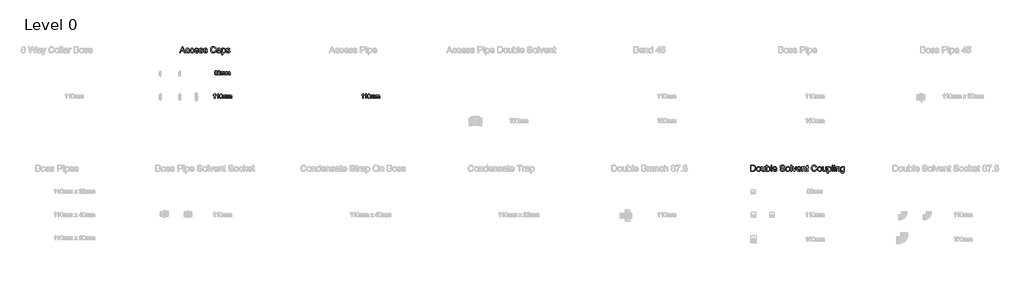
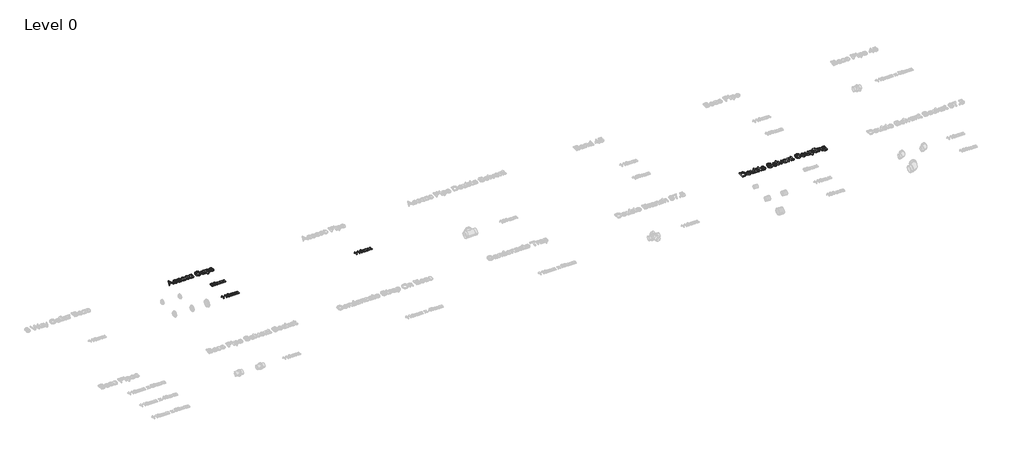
# One storey, part 24 of 28: 5 proxies.
"""IFC4 building model written with IfcOpenShell, lengths in millimetres."""

from ifc_helpers import new_model, si_unit, origin, origin_with_axes, place, context, project, spatial, polyline, outline, extrude, element, save

model = new_model("IFC4")

# Units and contexts
model_context = context("Model", 3, world=origin())
ifc_project = project(units=[si_unit("LENGTHUNIT", "METRE", prefix="MILLI")], contexts=[model_context])

# Site, building, storey
site = spatial("IfcSite", under=ifc_project)
building = spatial("IfcBuilding", under=site)
storey = spatial("IfcBuildingStorey", under=building, Name="Level 0", Elevation=0.0)

# Proxies
placement = place(None, origin())
element("IfcBuildingElementProxy", 1, Name="100mm Arial", ObjectType="100mm Arial", at=placement, inside=storey, context=model_context, shape_type="SweptSolid", body=[
    extrude(outline(polyline([(-13782.2581649, 8840.881174), (-13793.4721072, 8848.5254048), (-13797.1139341, 8860.4244433), (-13795.1307611, 8870.0458375), (-13789.1812418, 8877.9965587), (-13779.9324438, 8883.3330971), (-13768.0514341, 8885.1119433), (-13756.0983091, 8883.2910298), (-13746.7293188, 8877.8282894), (-13740.6716264, 8869.7513663), (-13738.6523957, 8860.0879048), (-13742.2461457, 8848.4893471), (-13753.147588, 8840.881174), (-13740.0586457, 8831.2297317), (-13735.5754726, 8815.304251), (-13737.7990303, 8803.537424), (-13744.4697034, 8793.8138663), (-13754.7701841, 8787.287424), (-13767.8831649, 8785.1119433), (-13780.9961457, 8787.2964385), (-13791.2966264, 8793.849924), (-13797.9672995, 8803.6666308), (-13800.1908572, 8815.6407894), (-13795.5273957, 8831.9388663), (-13782.2581649, 8840.881174)]), holes=[polyline([(-13784.8062418, 8860.0638663), (-13780.4432611, 8850.4004048), (-13767.7389341, 8846.6504048), (-13755.2870111, 8850.3763663), (-13750.960088, 8859.5109817), (-13755.4312418, 8868.9701163), (-13767.8831649, 8872.804251), (-13780.3711457, 8869.054251), (-13784.8062418, 8860.0638663)]), polyline([(-13787.8831649, 8816.0734817), (-13785.8278764, 8806.8066548), (-13778.5562418, 8799.8715587), (-13767.7870111, 8797.4196356), (-13753.1235495, 8802.5758856), (-13747.8831649, 8815.6888663), (-13753.2918188, 8829.054251), (-13759.7221072, 8833.0205971), (-13768.1956649, 8834.3427125), (-13782.678838, 8829.1263663), (-13787.8831649, 8816.0734817)])]), origin_with_axes(), (0.0, 0.0, 1.0), 15.0),
    extrude(outline(polyline([(-13661.7293188, 8798.9580971), (-13661.7293188, 8786.6504048), (-13726.3447034, 8786.6504048), (-13725.022588, 8795.1359817), (-13717.5466264, 8808.2008856), (-13702.1379726, 8822.4677125), (-13680.8879726, 8842.9725202), (-13675.5754726, 8856.9148279), (-13680.5874918, 8868.2008856), (-13693.6764341, 8872.804251), (-13707.3182611, 8868.3090587), (-13712.4985495, 8855.881174), (-13724.8062418, 8857.4196356), (-13721.8224678, 8869.3246837), (-13715.3711457, 8878.0205971), (-13705.7888139, 8883.3391067), (-13693.4120111, 8885.1119433), (-13680.9450639, 8883.1407894), (-13671.3807611, 8877.2273279), (-13665.2960255, 8868.3931933), (-13663.2677803, 8857.6600202), (-13665.4552803, 8845.9893471), (-13672.7269149, 8833.9220394), (-13690.3591264, 8817.0590587), (-13704.5177803, 8805.2201163), (-13710.0706649, 8798.9580971), (-13661.7293188, 8798.9580971)])), origin_with_axes(), (0.0, 0.0, 1.0), 15.0),
    extrude(outline(polyline([(-13646.3447034, 8786.6504048), (-13646.3447034, 8858.9580971), (-13634.0370111, 8858.9580971), (-13634.0370111, 8847.0590587), (-13625.5754726, 8856.8066548), (-13613.5322034, 8860.4965587), (-13601.2004726, 8856.7345394), (-13594.4216264, 8846.193674), (-13584.8182611, 8856.9208375), (-13572.6908572, 8860.4965587), (-13563.4390543, 8859.0091788), (-13556.5971072, 8854.5470394), (-13552.3693428, 8846.9899481), (-13550.960088, 8836.2177125), (-13550.960088, 8786.6504048), (-13563.2677803, 8786.6504048), (-13563.2677803, 8830.929251), (-13564.4096072, 8841.2056933), (-13568.5442226, 8846.2657894), (-13575.5754726, 8848.1888663), (-13587.678838, 8843.2609817), (-13592.4985495, 8827.4677125), (-13592.4985495, 8786.6504048), (-13604.8062418, 8786.6504048), (-13604.8062418, 8832.2994433), (-13607.6547995, 8844.2225202), (-13616.9937418, 8848.1888663), (-13626.1043188, 8845.5446356), (-13632.1620111, 8837.804251), (-13634.0370111, 8823.116751), (-13634.0370111, 8786.6504048), (-13646.3447034, 8786.6504048)])), origin_with_axes(), (0.0, 0.0, 1.0), 15.0),
    extrude(outline(polyline([(-13532.4985495, 8786.6504048), (-13532.4985495, 8858.9580971), (-13520.1908572, 8858.9580971), (-13520.1908572, 8847.0590587), (-13511.7293188, 8856.8066548), (-13499.6860495, 8860.4965587), (-13487.3543188, 8856.7345394), (-13480.5754726, 8846.193674), (-13470.9721072, 8856.9208375), (-13458.8447034, 8860.4965587), (-13449.5929005, 8859.0091788), (-13442.7509534, 8854.5470394), (-13438.5231889, 8846.9899481), (-13437.1139341, 8836.2177125), (-13437.1139341, 8786.6504048), (-13449.4216264, 8786.6504048), (-13449.4216264, 8830.929251), (-13450.5634534, 8841.2056933), (-13454.6980688, 8846.2657894), (-13461.7293188, 8848.1888663), (-13473.8326841, 8843.2609817), (-13478.6523957, 8827.4677125), (-13478.6523957, 8786.6504048), (-13490.960088, 8786.6504048), (-13490.960088, 8832.2994433), (-13493.8086457, 8844.2225202), (-13503.147588, 8848.1888663), (-13512.2581649, 8845.5446356), (-13518.3158572, 8837.804251), (-13520.1908572, 8823.116751), (-13520.1908572, 8786.6504048), (-13532.4985495, 8786.6504048)])), origin_with_axes(), (0.0, 0.0, 1.0), 15.0),
])
element("IfcBuildingElementProxy", 2, Name="100mm Arial", ObjectType="100mm Arial", at=placement, inside=storey, context=model_context, shape_type="SweptSolid", body=[
    extrude(outline(polyline([(-13791.7293188, 8237.7167304), (-13804.0370111, 8237.7167304), (-13804.0370111, 8314.4474996), (-13815.6956649, 8306.1422111), (-13828.6523957, 8299.9282688), (-13828.6523957, 8311.5628842), (-13810.6115303, 8323.0773073), (-13799.6620111, 8336.1782688), (-13791.7293188, 8336.1782688), (-13791.7293188, 8237.7167304)])), origin_with_axes(), (0.0, 0.0, 1.0), 15.0),
    extrude(outline(polyline([(-13716.3447034, 8237.7167304), (-13728.6523957, 8237.7167304), (-13728.6523957, 8314.4474996), (-13740.3110495, 8306.1422111), (-13753.2677803, 8299.9282688), (-13753.2677803, 8311.5628842), (-13735.2269149, 8323.0773073), (-13724.2773957, 8336.1782688), (-13716.3447034, 8336.1782688), (-13716.3447034, 8237.7167304)])), origin_with_axes(), (0.0, 0.0, 1.0), 15.0),
    extrude(outline(polyline([(-13687.1139341, 8286.1542304), (-13683.4961457, 8314.4835573), (-13672.7509534, 8330.8176919), (-13654.8062418, 8336.1782688), (-13640.4312418, 8333.0051919), (-13630.5033572, 8323.8585573), (-13624.7341264, 8309.2912496), (-13622.4985495, 8286.1542304), (-13626.0802803, 8257.9450958), (-13636.7894149, 8241.5749035), (-13654.8062418, 8236.1782688), (-13667.5947034, 8238.5220188), (-13677.3062418, 8245.5532688), (-13684.6620111, 8262.2059131), (-13687.1139341, 8286.1542304)]), holes=[polyline([(-13674.8062418, 8286.1782688), (-13673.3639341, 8266.8182929), (-13669.0370111, 8255.613365), (-13662.5947034, 8250.2678121), (-13654.8062418, 8248.4859611), (-13647.0177803, 8250.2738217), (-13640.5754726, 8255.6374035), (-13636.2485495, 8266.848341), (-13634.8062418, 8286.1782688), (-13636.2004726, 8305.1025477), (-13640.3831649, 8316.394615), (-13646.8134534, 8322.0015861), (-13654.9504726, 8323.8705765), (-13662.6547995, 8322.2239419), (-13668.8447034, 8317.2840381), (-13673.3158572, 8305.2888458), (-13674.8062418, 8286.1782688)])]), origin_with_axes(), (0.0, 0.0, 1.0), 15.0),
    extrude(outline(polyline([(-13608.6523957, 8237.7167304), (-13608.6523957, 8310.0244227), (-13596.3447034, 8310.0244227), (-13596.3447034, 8298.1253842), (-13587.8831649, 8307.8729804), (-13575.8398957, 8311.5628842), (-13563.5081649, 8307.800865), (-13556.7293188, 8297.2599996), (-13547.1259534, 8307.9871631), (-13534.9985495, 8311.5628842), (-13525.7467466, 8310.0755044), (-13518.9047995, 8305.613365), (-13514.6770351, 8298.0562736), (-13513.2677803, 8287.2840381), (-13513.2677803, 8237.7167304), (-13525.5754726, 8237.7167304), (-13525.5754726, 8281.9955765), (-13526.7172995, 8292.2720188), (-13530.8519149, 8297.332115), (-13537.8831649, 8299.2551919), (-13549.9865303, 8294.3273073), (-13554.8062418, 8278.5340381), (-13554.8062418, 8237.7167304), (-13567.1139341, 8237.7167304), (-13567.1139341, 8283.3657688), (-13569.9624918, 8295.2888458), (-13579.3014341, 8299.2551919), (-13588.4120111, 8296.6109611), (-13594.4697034, 8288.8705765), (-13596.3447034, 8274.1830765), (-13596.3447034, 8237.7167304), (-13608.6523957, 8237.7167304)])), origin_with_axes(), (0.0, 0.0, 1.0), 15.0),
    extrude(outline(polyline([(-13494.8062418, 8237.7167304), (-13494.8062418, 8310.0244227), (-13482.4985495, 8310.0244227), (-13482.4985495, 8298.1253842), (-13474.0370111, 8307.8729804), (-13461.9937418, 8311.5628842), (-13449.6620111, 8307.800865), (-13442.8831649, 8297.2599996), (-13433.2797995, 8307.9871631), (-13421.1523957, 8311.5628842), (-13411.9005928, 8310.0755044), (-13405.0586457, 8305.613365), (-13400.8308813, 8298.0562736), (-13399.4216264, 8287.2840381), (-13399.4216264, 8237.7167304), (-13411.7293188, 8237.7167304), (-13411.7293188, 8281.9955765), (-13412.8711457, 8292.2720188), (-13417.0057611, 8297.332115), (-13424.0370111, 8299.2551919), (-13436.1403764, 8294.3273073), (-13440.960088, 8278.5340381), (-13440.960088, 8237.7167304), (-13453.2677803, 8237.7167304), (-13453.2677803, 8283.3657688), (-13456.116338, 8295.2888458), (-13465.4552803, 8299.2551919), (-13474.5658572, 8296.6109611), (-13480.6235495, 8288.8705765), (-13482.4985495, 8274.1830765), (-13482.4985495, 8237.7167304), (-13494.8062418, 8237.7167304)])), origin_with_axes(), (0.0, 0.0, 1.0), 15.0),
])
element("IfcBuildingElementProxy", 3, Name="100mm Arial", ObjectType="100mm Arial", at=placement, inside=storey, context=model_context, shape_type="SweptSolid", body=[
    extrude(outline(polyline([(-10291.7293188, 8237.7167304), (-10304.0370111, 8237.7167304), (-10304.0370111, 8314.4474996), (-10315.6956649, 8306.1422111), (-10328.6523957, 8299.9282688), (-10328.6523957, 8311.5628842), (-10310.6115303, 8323.0773073), (-10299.6620111, 8336.1782688), (-10291.7293188, 8336.1782688), (-10291.7293188, 8237.7167304)])), origin_with_axes(), (0.0, 0.0, 1.0), 15.0),
    extrude(outline(polyline([(-10216.3447034, 8237.7167304), (-10228.6523957, 8237.7167304), (-10228.6523957, 8314.4474996), (-10240.3110495, 8306.1422111), (-10253.2677803, 8299.9282688), (-10253.2677803, 8311.5628842), (-10235.2269149, 8323.0773073), (-10224.2773957, 8336.1782688), (-10216.3447034, 8336.1782688), (-10216.3447034, 8237.7167304)])), origin_with_axes(), (0.0, 0.0, 1.0), 15.0),
    extrude(outline(polyline([(-10187.1139341, 8286.1542304), (-10183.4961457, 8314.4835573), (-10172.7509534, 8330.8176919), (-10154.8062418, 8336.1782688), (-10140.4312418, 8333.0051919), (-10130.5033572, 8323.8585573), (-10124.7341264, 8309.2912496), (-10122.4985495, 8286.1542304), (-10126.0802803, 8257.9450958), (-10136.7894149, 8241.5749035), (-10154.8062418, 8236.1782688), (-10167.5947034, 8238.5220188), (-10177.3062418, 8245.5532688), (-10184.6620111, 8262.2059131), (-10187.1139341, 8286.1542304)]), holes=[polyline([(-10174.8062418, 8286.1782688), (-10173.3639341, 8266.8182929), (-10169.0370111, 8255.613365), (-10162.5947034, 8250.2678121), (-10154.8062418, 8248.4859611), (-10147.0177803, 8250.2738217), (-10140.5754726, 8255.6374035), (-10136.2485495, 8266.848341), (-10134.8062418, 8286.1782688), (-10136.2004726, 8305.1025477), (-10140.3831649, 8316.394615), (-10146.8134534, 8322.0015861), (-10154.9504726, 8323.8705765), (-10162.6547995, 8322.2239419), (-10168.8447034, 8317.2840381), (-10173.3158572, 8305.2888458), (-10174.8062418, 8286.1782688)])]), origin_with_axes(), (0.0, 0.0, 1.0), 15.0),
    extrude(outline(polyline([(-10108.6523957, 8237.7167304), (-10108.6523957, 8310.0244227), (-10096.3447034, 8310.0244227), (-10096.3447034, 8298.1253842), (-10087.8831649, 8307.8729804), (-10075.8398957, 8311.5628842), (-10063.5081649, 8307.800865), (-10056.7293188, 8297.2599996), (-10047.1259534, 8307.9871631), (-10034.9985495, 8311.5628842), (-10025.7467466, 8310.0755044), (-10018.9047995, 8305.613365), (-10014.6770351, 8298.0562736), (-10013.2677803, 8287.2840381), (-10013.2677803, 8237.7167304), (-10025.5754726, 8237.7167304), (-10025.5754726, 8281.9955765), (-10026.7172995, 8292.2720188), (-10030.8519149, 8297.332115), (-10037.8831649, 8299.2551919), (-10049.9865303, 8294.3273073), (-10054.8062418, 8278.5340381), (-10054.8062418, 8237.7167304), (-10067.1139341, 8237.7167304), (-10067.1139341, 8283.3657688), (-10069.9624918, 8295.2888458), (-10079.3014341, 8299.2551919), (-10088.4120111, 8296.6109611), (-10094.4697034, 8288.8705765), (-10096.3447034, 8274.1830765), (-10096.3447034, 8237.7167304), (-10108.6523957, 8237.7167304)])), origin_with_axes(), (0.0, 0.0, 1.0), 15.0),
    extrude(outline(polyline([(-9994.8062418, 8237.7167304), (-9994.8062418, 8310.0244227), (-9982.4985495, 8310.0244227), (-9982.4985495, 8298.1253842), (-9974.0370111, 8307.8729804), (-9961.9937418, 8311.5628842), (-9949.6620111, 8307.800865), (-9942.8831649, 8297.2599996), (-9933.2797995, 8307.9871631), (-9921.1523957, 8311.5628842), (-9911.9005928, 8310.0755044), (-9905.0586457, 8305.613365), (-9900.8308813, 8298.0562736), (-9899.4216264, 8287.2840381), (-9899.4216264, 8237.7167304), (-9911.7293188, 8237.7167304), (-9911.7293188, 8281.9955765), (-9912.8711457, 8292.2720188), (-9917.0057611, 8297.332115), (-9924.0370111, 8299.2551919), (-9936.1403764, 8294.3273073), (-9940.960088, 8278.5340381), (-9940.960088, 8237.7167304), (-9953.2677803, 8237.7167304), (-9953.2677803, 8283.3657688), (-9956.116338, 8295.2888458), (-9965.4552803, 8299.2551919), (-9974.5658572, 8296.6109611), (-9980.6235495, 8288.8705765), (-9982.4985495, 8274.1830765), (-9982.4985495, 8237.7167304), (-9994.8062418, 8237.7167304)])), origin_with_axes(), (0.0, 0.0, 1.0), 15.0),
])
element("IfcBuildingElementProxy", 4, Name="150mm Arial", ObjectType="150mm Arial", at=placement, inside=storey, context=model_context, shape_type="SweptSolid", body=[
    extrude(outline(polyline([(-14630.1121243, 9305.2145219), (-14571.1577973, 9452.9068296), (-14555.4366435, 9452.9068296), (-14496.4823166, 9305.2145219), (-14515.9895281, 9305.2145219), (-14532.9005858, 9351.3683681), (-14593.7299127, 9351.3683681), (-14610.6049127, 9305.2145219), (-14630.1121243, 9305.2145219)]), holes=[polyline([(-14586.9510666, 9369.8299065), (-14539.6433743, 9369.8299065), (-14552.9486627, 9406.1400027), (-14563.2972204, 9434.4452911), (-14572.491932, 9409.3130796), (-14586.9510666, 9369.8299065)])]), origin_with_axes(), (0.0, 0.0, 1.0), 25.0),
    extrude(outline(polyline([(-14409.835682, 9344.4452911), (-14391.3741435, 9342.1375988), (-14396.5213791, 9325.7178272), (-14406.193855, 9313.3094738), (-14419.4811147, 9305.5074907), (-14435.4727012, 9302.9068296), (-14455.1106219, 9306.5351349), (-14470.4666916, 9317.4200508), (-14480.3780497, 9335.0838128), (-14483.6818358, 9359.0486565), (-14478.038807, 9389.7157238), (-14470.9174127, 9401.2136205), (-14460.8392877, 9409.4212527), (-14448.7824969, 9414.3431277), (-14435.725105, 9415.9837527), (-14420.1256459, 9413.7301469), (-14407.6541916, 9406.9693296), (-14398.7073767, 9396.0618777), (-14393.6818358, 9381.3683681), (-14412.1433743, 9379.0606758), (-14420.7070762, 9392.8888008), (-14435.5808743, 9397.5222142), (-14447.5114632, 9395.2415652), (-14456.9811147, 9388.3996181), (-14463.1605017, 9376.6267815), (-14465.2202973, 9359.5534642), (-14463.2055738, 9342.2502791), (-14457.1614031, 9330.4368777), (-14447.8630257, 9323.6354955), (-14436.085682, 9321.3683681), (-14426.5258863, 9322.7836325), (-14418.6878454, 9327.0294258), (-14412.9862228, 9334.213921), (-14409.835682, 9344.4452911)])), origin_with_axes(), (0.0, 0.0, 1.0), 25.0),
    extrude(outline(polyline([(-14305.9895281, 9344.4452911), (-14287.5279897, 9342.1375988), (-14292.6752252, 9325.7178272), (-14302.3477012, 9313.3094738), (-14315.6349608, 9305.5074907), (-14331.6265473, 9302.9068296), (-14351.264468, 9306.5351349), (-14366.6205377, 9317.4200508), (-14376.5318959, 9335.0838128), (-14379.835682, 9359.0486565), (-14374.1926531, 9389.7157238), (-14367.0712589, 9401.2136205), (-14356.9931339, 9409.4212527), (-14344.936343, 9414.3431277), (-14331.8789512, 9415.9837527), (-14316.2794921, 9413.7301469), (-14303.8080377, 9406.9693296), (-14294.8612228, 9396.0618777), (-14289.835682, 9381.3683681), (-14308.2972204, 9379.0606758), (-14316.8609223, 9392.8888008), (-14331.7347204, 9397.5222142), (-14343.6653094, 9395.2415652), (-14353.1349608, 9388.3996181), (-14359.3143478, 9376.6267815), (-14361.3741435, 9359.5534642), (-14359.3594199, 9342.2502791), (-14353.3152493, 9330.4368777), (-14344.0168719, 9323.6354955), (-14332.2395281, 9321.3683681), (-14322.6797324, 9322.7836325), (-14314.8416916, 9327.0294258), (-14309.140069, 9334.213921), (-14305.9895281, 9344.4452911)])), origin_with_axes(), (0.0, 0.0, 1.0), 25.0),
    extrude(outline(polyline([(-14195.4366435, 9337.5222142), (-14177.335682, 9335.2145219), (-14183.8576171, 9321.5756998), (-14194.2647685, 9311.3803873), (-14208.3227613, 9305.025219), (-14225.7972204, 9302.9068296), (-14247.4588791, 9306.5621782), (-14264.1265473, 9317.5282238), (-14274.7545522, 9335.0928272), (-14278.2972204, 9358.5438488), (-14274.7184945, 9382.7836325), (-14263.9823166, 9400.9116373), (-14247.5400089, 9412.2157238), (-14226.8428935, 9415.9837527), (-14206.7903094, 9412.2247383), (-14190.7671723, 9400.947695), (-14180.2608622, 9382.8557479), (-14176.7587589, 9358.6520219), (-14176.866932, 9353.6760604), (-14259.835682, 9353.6760604), (-14256.640069, 9339.8569498), (-14249.2166916, 9329.697695), (-14238.5030497, 9323.4506998), (-14225.4366435, 9321.3683681), (-14207.335682, 9325.2265411), (-14195.4366435, 9337.5222142)]), holes=[polyline([(-14259.835682, 9372.1375988), (-14195.2202973, 9372.1375988), (-14197.7172925, 9381.8912046), (-14202.6121243, 9388.8683681), (-14213.3753454, 9395.3587527), (-14226.9150089, 9397.5222142), (-14239.3594199, 9395.7959522), (-14249.6493839, 9390.6171661), (-14256.8023286, 9382.5447503), (-14259.835682, 9372.1375988)])]), origin_with_axes(), (0.0, 0.0, 1.0), 25.0),
    extrude(outline(polyline([(-14165.2202973, 9337.5222142), (-14146.7587589, 9339.8299065), (-14143.8471002, 9331.9332719), (-14138.2130858, 9326.1279835), (-14118.6337589, 9321.3683681), (-14099.8116435, 9325.7313488), (-14093.6818358, 9335.9717335), (-14099.8477012, 9344.2650027), (-14118.850105, 9349.5294258), (-14146.6505858, 9358.5618777), (-14158.7839993, 9369.1087527), (-14162.912605, 9384.0005796), (-14159.5952973, 9397.7565892), (-14150.5448166, 9408.2674065), (-14138.8080377, 9413.7301469), (-14122.9246243, 9415.9837527), (-14100.460682, 9412.3599546), (-14086.1818358, 9402.5522623), (-14079.835682, 9385.9837527), (-14098.2972204, 9383.6760604), (-14105.2383262, 9393.8623585), (-14121.4823166, 9397.5222142), (-14139.1505858, 9394.0246181), (-14144.4510666, 9385.8755796), (-14142.2515473, 9380.5029835), (-14135.3645281, 9376.4284642), (-14119.4630858, 9372.4981758), (-14092.36573, 9363.8082719), (-14079.7815954, 9353.9645219), (-14075.2202973, 9337.9188488), (-14080.5748647, 9320.2505796), (-14096.0255858, 9307.43207), (-14118.8861627, 9302.9068296), (-14137.5009464, 9305.08832), (-14151.085682, 9311.6327911), (-14160.1541916, 9322.4681277), (-14165.2202973, 9337.5222142)])), origin_with_axes(), (0.0, 0.0, 1.0), 25.0),
    extrude(outline(polyline([(-14061.3741435, 9337.5222142), (-14042.912605, 9339.8299065), (-14040.0009464, 9331.9332719), (-14034.366932, 9326.1279835), (-14014.787605, 9321.3683681), (-13995.9654897, 9325.7313488), (-13989.835682, 9335.9717335), (-13996.0015473, 9344.2650027), (-14015.0039512, 9349.5294258), (-14042.804432, 9358.5618777), (-14054.9378454, 9369.1087527), (-14059.0664512, 9384.0005796), (-14055.7491435, 9397.7565892), (-14046.6986627, 9408.2674065), (-14034.9618839, 9413.7301469), (-14019.0784704, 9415.9837527), (-13996.6145281, 9412.3599546), (-13982.335682, 9402.5522623), (-13975.9895281, 9385.9837527), (-13994.4510666, 9383.6760604), (-14001.3921723, 9393.8623585), (-14017.6361627, 9397.5222142), (-14035.304432, 9394.0246181), (-14040.6049127, 9385.8755796), (-14038.4053935, 9380.5029835), (-14031.5183743, 9376.4284642), (-14015.616932, 9372.4981758), (-13988.5195762, 9363.8082719), (-13975.9354416, 9353.9645219), (-13971.3741435, 9337.9188488), (-13976.7287108, 9320.2505796), (-13992.179432, 9307.43207), (-14015.0400089, 9302.9068296), (-14033.6547925, 9305.08832), (-14047.2395281, 9311.6327911), (-14056.3080377, 9322.4681277), (-14061.3741435, 9337.5222142)])), origin_with_axes(), (0.0, 0.0, 1.0), 25.0),
    extrude(outline(polyline([(-13786.7587589, 9357.7145219), (-13768.2972204, 9352.9549065), (-13776.8158502, 9331.4419859), (-13790.1842397, 9315.7253392), (-13807.7443358, 9306.111457), (-13828.8380858, 9302.9068296), (-13850.2518478, 9305.3317094), (-13867.257557, 9312.6063488), (-13880.2924127, 9324.478344), (-13889.7936147, 9340.6952911), (-13895.5943959, 9359.760796), (-13897.5279897, 9380.1784642), (-13895.3419921, 9401.713921), (-13888.7839993, 9420.3106758), (-13878.1965594, 9435.3782839), (-13863.9222204, 9446.3263008), (-13846.9931339, 9452.9924666), (-13828.4414512, 9455.2145219), (-13808.1995642, 9452.338921), (-13791.4642877, 9443.7121181), (-13778.7584584, 9429.8659642), (-13770.6049127, 9411.3323104), (-13789.0664512, 9406.9332719), (-13795.4666916, 9420.3963128), (-13804.210682, 9429.6315892), (-13815.4065954, 9434.9726349), (-13829.162605, 9436.7529835), (-13845.0189752, 9434.7788248), (-13858.0448166, 9428.8563488), (-13867.9291315, 9419.6075508), (-13874.3609223, 9407.6544258), (-13879.0664512, 9380.2145219), (-13873.4955377, 9348.4116373), (-13866.3741435, 9336.5351349), (-13856.1517877, 9328.0931277), (-13843.8966796, 9323.049558), (-13830.6770281, 9321.3683681), (-13815.2668719, 9323.6580315), (-13802.4258262, 9330.5270219), (-13792.7308142, 9341.9032238), (-13786.7587589, 9357.7145219)])), origin_with_axes(), (0.0, 0.0, 1.0), 25.0),
    extrude(outline(polyline([(-13675.9895281, 9319.0606758), (-13693.8921723, 9306.5486565), (-13713.6698166, 9302.9068296), (-13729.0980017, 9305.0973344), (-13740.4787108, 9311.6688488), (-13747.4964392, 9321.6478152), (-13749.835682, 9334.0606758), (-13746.3020281, 9348.6640411), (-13737.0171723, 9359.2650027), (-13724.0904897, 9365.322695), (-13708.116932, 9368.0991373), (-13676.0977012, 9374.4452911), (-13675.9895281, 9378.5558681), (-13677.2605618, 9386.7950508), (-13681.0736627, 9392.1856758), (-13689.601307, 9396.1880796), (-13701.4823166, 9397.5222142), (-13720.1602012, 9393.9705315), (-13729.0664512, 9381.3683681), (-13747.5279897, 9383.6760604), (-13739.5412108, 9401.7049065), (-13723.45948, 9412.2698104), (-13699.1025089, 9415.9837527), (-13676.7287108, 9412.7025027), (-13664.0904897, 9404.46332), (-13658.429432, 9391.9332719), (-13657.5279897, 9375.7794258), (-13657.5279897, 9352.8106758), (-13656.5904897, 9320.7373585), (-13652.912605, 9305.2145219), (-13671.3741435, 9305.2145219), (-13675.9895281, 9319.0606758)]), holes=[polyline([(-13675.9895281, 9355.9837527), (-13705.773182, 9350.322695), (-13721.6565954, 9347.3299065), (-13728.850105, 9342.4621181), (-13731.3741435, 9335.3587527), (-13725.8753454, 9325.3707719), (-13709.7395281, 9321.3683681), (-13691.0616435, 9325.7854354), (-13679.0183743, 9336.4765411), (-13676.0977012, 9350.7553873), (-13675.9895281, 9355.9837527)])]), origin_with_axes(), (0.0, 0.0, 1.0), 25.0),
    extrude(outline(polyline([(-13632.1433743, 9263.6760604), (-13632.1433743, 9413.6760604), (-13613.6818358, 9413.6760604), (-13613.6818358, 9395.5750988), (-13600.9174127, 9410.8815892), (-13583.6818358, 9415.9837527), (-13571.1968598, 9414.1988969), (-13560.2803935, 9408.8443296), (-13551.3921723, 9400.24457), (-13544.991932, 9388.7241373), (-13539.835682, 9360.2746181), (-13541.2915113, 9344.4858561), (-13545.6589993, 9330.3647623), (-13552.7984223, 9318.6279835), (-13562.570057, 9309.9921661), (-13573.9507661, 9304.6781637), (-13585.9174127, 9302.9068296), (-13601.9811147, 9307.6484161), (-13613.6818358, 9319.6375988), (-13613.6818358, 9263.6760604), (-13632.1433743, 9263.6760604)]), holes=[polyline([(-13613.6818358, 9358.5799065), (-13611.6851411, 9342.0294258), (-13605.695057, 9330.4549065), (-13596.8564151, 9323.6400027), (-13586.3140473, 9321.3683681), (-13575.6004055, 9323.7211325), (-13566.5364031, 9330.7794258), (-13560.3570161, 9342.7776229), (-13558.2972204, 9359.9500988), (-13560.3074368, 9376.4104354), (-13566.3380858, 9388.1472142), (-13575.163206, 9395.1784642), (-13585.5568358, 9397.5222142), (-13595.9910305, 9395.0297262), (-13605.1541916, 9387.5522623), (-13611.5499247, 9375.3241974), (-13613.6818358, 9358.5799065)])]), origin_with_axes(), (0.0, 0.0, 1.0), 25.0),
    extrude(outline(polyline([(-13525.9895281, 9337.5222142), (-13507.5279897, 9339.8299065), (-13504.616331, 9331.9332719), (-13498.9823166, 9326.1279835), (-13479.4029897, 9321.3683681), (-13460.5808743, 9325.7313488), (-13454.4510666, 9335.9717335), (-13460.616932, 9344.2650027), (-13479.6193358, 9349.5294258), (-13507.4198166, 9358.5618777), (-13519.55323, 9369.1087527), (-13523.6818358, 9384.0005796), (-13520.3645281, 9397.7565892), (-13511.3140473, 9408.2674065), (-13499.5772685, 9413.7301469), (-13483.693855, 9415.9837527), (-13461.2299127, 9412.3599546), (-13446.9510666, 9402.5522623), (-13440.6049127, 9385.9837527), (-13459.0664512, 9383.6760604), (-13466.007557, 9393.8623585), (-13482.2515473, 9397.5222142), (-13499.9198166, 9394.0246181), (-13505.2202973, 9385.8755796), (-13503.0207781, 9380.5029835), (-13496.1337589, 9376.4284642), (-13480.2323166, 9372.4981758), (-13453.1349608, 9363.8082719), (-13440.5508262, 9353.9645219), (-13435.9895281, 9337.9188488), (-13441.3440954, 9320.2505796), (-13456.7948166, 9307.43207), (-13479.6553935, 9302.9068296), (-13498.2701772, 9305.08832), (-13511.8549127, 9311.6327911), (-13520.9234223, 9322.4681277), (-13525.9895281, 9337.5222142)])), origin_with_axes(), (0.0, 0.0, 1.0), 25.0),
])
element("IfcBuildingElementProxy", 5, Name="150mm Arial", ObjectType="150mm Arial", at=placement, inside=storey, context=model_context, shape_type="SweptSolid", body=[
    extrude(outline(polyline([(-1137.912605, 6505.2145219), (-1137.912605, 6652.9068296), (-1086.9630858, 6652.9068296), (-1060.6049127, 6650.7794258), (-1038.898182, 6640.2145219), (-1028.6848406, 6628.9645219), (-1021.4102012, 6614.9741373), (-1017.0562348, 6598.5138008), (-1015.6049127, 6579.853945), (-1019.5352012, 6550.0522623), (-1029.631355, 6528.5438488), (-1043.116932, 6515.1484161), (-1060.7671723, 6507.7385604), (-1084.5111627, 6505.2145219), (-1137.912605, 6505.2145219)]), holes=[polyline([(-1119.4510666, 6523.6760604), (-1086.7827973, 6523.6760604), (-1063.0207781, 6526.3443296), (-1049.318855, 6533.8803873), (-1038.0868839, 6552.2157238), (-1034.0664512, 6580.1424065), (-1036.0361026, 6600.2625988), (-1041.945057, 6615.1183681), (-1050.6755257, 6625.322695), (-1061.1097204, 6631.4885604), (-1087.287605, 6634.4452911), (-1119.4510666, 6634.4452911), (-1119.4510666, 6523.6760604)])]), origin_with_axes(), (0.0, 0.0, 1.0), 25.0),
    extrude(outline(polyline([(-997.1433743, 6559.4452911), (-993.1499848, 6585.5961325), (-981.1698166, 6603.9765411), (-966.3681339, 6612.9819498), (-948.6457781, 6615.9837527), (-929.2512469, 6612.3284041), (-913.7599608, 6601.3623585), (-903.6052132, 6583.9510003), (-900.2202973, 6560.9597142), (-901.7166916, 6542.3088729), (-906.2058743, 6528.1111565), (-913.5571363, 6517.4786445), (-923.6397685, 6509.5234161), (-935.6154296, 6504.5609762), (-948.6457781, 6502.9068296), (-968.2746844, 6506.5486565), (-983.7479416, 6517.4741373), (-993.7945161, 6535.2505796), (-997.1433743, 6559.4452911)]), holes=[polyline([(-978.6818358, 6559.4813488), (-976.5454175, 6542.7731157), (-970.1361627, 6530.86957), (-960.49073, 6523.7436686), (-948.6457781, 6521.3683681), (-936.8549127, 6523.7571902), (-927.2275089, 6530.9236565), (-920.8182541, 6542.9849546), (-918.6818358, 6560.0582719), (-920.8317757, 6576.2797262), (-927.2815954, 6588.0210123), (-936.9225209, 6595.1469137), (-948.6457781, 6597.5222142), (-960.49073, 6595.1559282), (-970.1361627, 6588.05707), (-976.5454175, 6576.1805676), (-978.6818358, 6559.4813488)])]), origin_with_axes(), (0.0, 0.0, 1.0), 25.0),
    extrude(outline(polyline([(-810.2202973, 6505.2145219), (-810.2202973, 6523.8563488), (-824.679432, 6508.1442094), (-843.537605, 6502.9068296), (-860.8993839, 6506.5847142), (-872.8705377, 6515.8154835), (-878.3693358, 6529.4092335), (-879.4510666, 6546.572695), (-879.4510666, 6613.6760604), (-860.9895281, 6613.6760604), (-860.9895281, 6555.2625988), (-859.8717397, 6536.4404835), (-852.570057, 6525.3888008), (-838.8140473, 6521.3683681), (-823.3993839, 6525.478945), (-813.2130858, 6536.6748585), (-810.2202973, 6557.2457719), (-810.2202973, 6613.6760604), (-791.7587589, 6613.6760604), (-791.7587589, 6505.2145219), (-810.2202973, 6505.2145219)])), origin_with_axes(), (0.0, 0.0, 1.0), 25.0),
    extrude(outline(polyline([(-747.912605, 6505.2145219), (-766.3741435, 6505.2145219), (-766.3741435, 6652.9068296), (-747.912605, 6652.9068296), (-747.912605, 6598.135195), (-734.9859223, 6611.5216133), (-718.9222204, 6615.9837527), (-700.4246243, 6611.96332), (-686.0736627, 6600.6592335), (-677.257557, 6583.0811085), (-674.0664512, 6561.0678873), (-677.3702372, 6536.4224546), (-687.2815954, 6518.0871181), (-701.8263671, 6506.7019017), (-719.0303935, 6502.9068296), (-735.4456579, 6507.8016613), (-747.912605, 6522.4861565), (-747.912605, 6505.2145219)]), holes=[polyline([(-747.912605, 6560.2025027), (-746.6505858, 6544.8058681), (-742.8645281, 6534.385195), (-733.1920522, 6524.6225748), (-720.616932, 6521.3683681), (-709.9618839, 6523.7662046), (-700.8573166, 6530.9597142), (-694.6103214, 6542.9038248), (-692.5279897, 6559.5534642), (-694.5246844, 6576.4464931), (-700.5147685, 6588.2553873), (-709.3353815, 6595.2055075), (-719.8236627, 6597.5222142), (-730.4787108, 6595.1243777), (-739.5832781, 6587.9308681), (-745.8302733, 6576.2031036), (-747.912605, 6560.2025027)])]), origin_with_axes(), (0.0, 0.0, 1.0), 25.0),
    extrude(outline(polyline([(-653.2972204, 6505.2145219), (-653.2972204, 6652.9068296), (-634.835682, 6652.9068296), (-634.835682, 6505.2145219), (-653.2972204, 6505.2145219)])), origin_with_axes(), (0.0, 0.0, 1.0), 25.0),
    extrude(outline(polyline([(-531.2058743, 6537.5222142), (-513.1049127, 6535.2145219), (-519.6268478, 6521.5756998), (-530.0339993, 6511.3803873), (-544.0919921, 6505.025219), (-561.5664512, 6502.9068296), (-583.2281098, 6506.5621782), (-599.8957781, 6517.5282238), (-610.5237829, 6535.0928272), (-614.0664512, 6558.5438488), (-610.4877252, 6582.7836325), (-599.7515473, 6600.9116373), (-583.3092397, 6612.2157238), (-562.6121243, 6615.9837527), (-542.5595401, 6612.2247383), (-526.5364031, 6600.947695), (-516.030093, 6582.8557479), (-512.5279897, 6558.6520219), (-512.6361627, 6553.6760604), (-595.6049127, 6553.6760604), (-592.4092997, 6539.8569498), (-584.9859223, 6529.697695), (-574.2722805, 6523.4506998), (-561.2058743, 6521.3683681), (-543.1049127, 6525.2265411), (-531.2058743, 6537.5222142)]), holes=[polyline([(-595.6049127, 6572.1375988), (-530.9895281, 6572.1375988), (-533.4865233, 6581.8912046), (-538.381355, 6588.8683681), (-549.1445762, 6595.3587527), (-562.6842397, 6597.5222142), (-575.1286507, 6595.7959522), (-585.4186147, 6590.6171661), (-592.5715594, 6582.5447503), (-595.6049127, 6572.1375988)])]), origin_with_axes(), (0.0, 0.0, 1.0), 25.0),
    extrude(outline(polyline([(-440.9895281, 6555.9837527), (-422.5279897, 6555.9837527), (-416.5784704, 6537.5041854), (-402.0472204, 6525.8214931), (-379.9077973, 6521.3683681), (-360.616932, 6524.7397623), (-348.1589993, 6534.0065892), (-344.0664512, 6546.3924065), (-347.131355, 6557.9128392), (-359.679432, 6566.2962527), (-386.5604416, 6573.3455315), (-415.4967397, 6582.4500988), (-431.1998647, 6596.1880796), (-436.3741435, 6614.541445), (-434.7740834, 6625.3542455), (-429.9739031, 6635.4368777), (-422.0998046, 6643.9825508), (-411.2779897, 6650.1844738), (-383.9102012, 6655.2145219), (-354.7034704, 6649.9500988), (-343.507557, 6643.4506998), (-335.2323166, 6634.4813488), (-329.9949368, 6623.6009402), (-327.912605, 6611.3683681), (-346.3741435, 6611.3683681), (-349.7635666, 6622.3839931), (-356.8308743, 6630.3347142), (-367.8735425, 6635.1484161), (-383.1890473, 6636.7529835), (-398.8651291, 6635.166445), (-409.6193358, 6630.4068296), (-415.8392877, 6623.4026229), (-417.912605, 6615.0823104), (-416.4432541, 6607.9879594), (-412.0352012, 6602.2818296), (-381.8909704, 6591.9693296), (-349.2227012, 6582.7025027), (-338.6983622, 6576.0047863), (-331.3561147, 6567.7385604), (-325.6049127, 6546.8611565), (-327.2590594, 6535.4804474), (-332.2214993, 6524.77582), (-340.2894079, 6515.5630796), (-351.2599608, 6508.6580315), (-379.1866435, 6502.9068296), (-397.2740834, 6504.4573104), (-412.1614031, 6509.1087527), (-424.0198767, 6516.8791854), (-433.0207781, 6527.7866373), (-438.7990233, 6541.0738969), (-440.9895281, 6555.9837527)])), origin_with_axes(), (0.0, 0.0, 1.0), 25.0),
    extrude(outline(polyline([(-304.835682, 6559.4452911), (-300.8422925, 6585.5961325), (-288.8621243, 6603.9765411), (-274.0604416, 6612.9819498), (-256.3380858, 6615.9837527), (-236.9435546, 6612.3284041), (-221.4522685, 6601.3623585), (-211.2975209, 6583.9510003), (-207.912605, 6560.9597142), (-209.4089993, 6542.3088729), (-213.898182, 6528.1111565), (-221.249444, 6517.4786445), (-231.3320762, 6509.5234161), (-243.3077372, 6504.5609762), (-256.3380858, 6502.9068296), (-275.9669921, 6506.5486565), (-291.4402493, 6517.4741373), (-301.4868238, 6535.2505796), (-304.835682, 6559.4452911)]), holes=[polyline([(-286.3741435, 6559.4813488), (-284.2377252, 6542.7731157), (-277.8284704, 6530.86957), (-268.1830377, 6523.7436686), (-256.3380858, 6521.3683681), (-244.5472204, 6523.7571902), (-234.9198166, 6530.9236565), (-228.5105618, 6542.9849546), (-226.3741435, 6560.0582719), (-228.5240834, 6576.2797262), (-234.9739031, 6588.0210123), (-244.6148286, 6595.1469137), (-256.3380858, 6597.5222142), (-268.1830377, 6595.1559282), (-277.8284704, 6588.05707), (-284.2377252, 6576.1805676), (-286.3741435, 6559.4813488)])]), origin_with_axes(), (0.0, 0.0, 1.0), 25.0),
    extrude(outline(polyline([(-187.1433743, 6505.2145219), (-187.1433743, 6652.9068296), (-168.6818358, 6652.9068296), (-168.6818358, 6505.2145219), (-187.1433743, 6505.2145219)])), origin_with_axes(), (0.0, 0.0, 1.0), 25.0),
    extrude(outline(polyline([(-114.3789512, 6505.2145219), (-152.5279897, 6613.6760604), (-132.9847204, 6613.6760604), (-109.8717397, 6548.7000988), (-102.912605, 6526.8491373), (-96.0977012, 6547.4741373), (-72.8404897, 6613.6760604), (-53.2972204, 6613.6760604), (-90.9775089, 6505.2145219), (-114.3789512, 6505.2145219)])), origin_with_axes(), (0.0, 0.0, 1.0), 25.0),
    extrude(outline(polyline([(38.7941257, 6537.5222142), (56.8950873, 6535.2145219), (50.3731522, 6521.5756998), (39.9660007, 6511.3803873), (25.9080079, 6505.025219), (8.4335488, 6502.9068296), (-13.2281098, 6506.5621782), (-29.8957781, 6517.5282238), (-40.5237829, 6535.0928272), (-44.0664512, 6558.5438488), (-40.4877252, 6582.7836325), (-29.7515473, 6600.9116373), (-13.3092397, 6612.2157238), (7.3878757, 6615.9837527), (27.4404599, 6612.2247383), (43.4635969, 6600.947695), (53.969907, 6582.8557479), (57.4720103, 6558.6520219), (57.3638373, 6553.6760604), (-25.6049127, 6553.6760604), (-22.4092997, 6539.8569498), (-14.9859223, 6529.697695), (-4.2722805, 6523.4506998), (8.7941257, 6521.3683681), (26.8950873, 6525.2265411), (38.7941257, 6537.5222142)]), holes=[polyline([(-25.6049127, 6572.1375988), (39.0104719, 6572.1375988), (36.5134767, 6581.8912046), (31.618645, 6588.8683681), (20.8554238, 6595.3587527), (7.3157603, 6597.5222142), (-5.1286507, 6595.7959522), (-15.4186147, 6590.6171661), (-22.5715594, 6582.5447503), (-25.6049127, 6572.1375988)])]), origin_with_axes(), (0.0, 0.0, 1.0), 25.0),
    extrude(outline(polyline([(75.9335488, 6505.2145219), (75.9335488, 6613.6760604), (94.3950873, 6613.6760604), (94.3950873, 6598.5318296), (108.5116738, 6611.6207719), (127.7845103, 6615.9837527), (145.2184046, 6612.4681277), (157.117443, 6603.2373585), (162.6522988, 6589.6616373), (163.6258565, 6571.8130796), (163.6258565, 6505.2145219), (145.164318, 6505.2145219), (145.164318, 6569.3250988), (143.0369142, 6585.6592335), (135.5188853, 6594.2950508), (122.8446065, 6597.5222142), (112.031806, 6595.7103152), (102.8145584, 6590.2746181), (96.4999551, 6579.7728152), (94.3950873, 6562.7625988), (94.3950873, 6505.2145219), (75.9335488, 6505.2145219)])), origin_with_axes(), (0.0, 0.0, 1.0), 25.0),
    extrude(outline(polyline([(228.2412411, 6520.6111565), (230.5489334, 6504.6736565), (216.7388373, 6502.9068296), (201.2700873, 6505.9717335), (193.5537411, 6514.0125988), (191.3181642, 6534.9621181), (191.3181642, 6595.2145219), (177.4720103, 6595.2145219), (177.4720103, 6613.6760604), (191.3181642, 6613.6760604), (191.3181642, 6640.0342335), (209.7797027, 6650.8875988), (209.7797027, 6613.6760604), (228.2412411, 6613.6760604), (228.2412411, 6595.2145219), (209.7797027, 6595.2145219), (209.7797027, 6535.5029835), (210.7532603, 6525.9837527), (213.9083084, 6522.6123585), (220.2003757, 6521.3683681), (228.2412411, 6520.6111565)])), origin_with_axes(), (0.0, 0.0, 1.0), 25.0),
    extrude(outline(polyline([(410.5489334, 6557.7145219), (429.0104719, 6552.9549065), (420.4918421, 6531.4419859), (407.1234527, 6515.7253392), (389.5633565, 6506.111457), (368.4696065, 6502.9068296), (347.0558445, 6505.3317094), (330.0501353, 6512.6063488), (317.0152796, 6524.478344), (307.5140777, 6540.6952911), (301.7132964, 6559.760796), (299.7797027, 6580.1784642), (301.9657003, 6601.713921), (308.523693, 6620.3106758), (319.1111329, 6635.3782839), (333.3854719, 6646.3263008), (350.3145584, 6652.9924666), (368.8662411, 6655.2145219), (389.1081281, 6652.338921), (405.8434046, 6643.7121181), (418.5492339, 6629.8659642), (426.7027796, 6611.3323104), (408.2412411, 6606.9332719), (401.8410007, 6620.3963128), (393.0970103, 6629.6315892), (381.9010969, 6634.9726349), (368.1450873, 6636.7529835), (352.2887171, 6634.7788248), (339.2628757, 6628.8563488), (329.3785608, 6619.6075508), (322.94677, 6607.6544258), (318.2412411, 6580.2145219), (323.8121546, 6548.4116373), (330.9335488, 6536.5351349), (341.1559046, 6528.0931277), (353.4110128, 6523.049558), (366.6306642, 6521.3683681), (382.0408204, 6523.6580315), (394.8818661, 6530.5270219), (404.5768781, 6541.9032238), (410.5489334, 6557.7145219)])), origin_with_axes(), (0.0, 0.0, 1.0), 25.0),
    extrude(outline(polyline([(447.4720103, 6559.4452911), (451.4653998, 6585.5961325), (463.445568, 6603.9765411), (478.2472507, 6612.9819498), (495.9696065, 6615.9837527), (515.3641378, 6612.3284041), (530.8554238, 6601.3623585), (541.0101714, 6583.9510003), (544.3950873, 6560.9597142), (542.898693, 6542.3088729), (538.4095103, 6528.1111565), (531.0582483, 6517.4786445), (520.9756161, 6509.5234161), (508.9999551, 6504.5609762), (495.9696065, 6502.9068296), (476.3407003, 6506.5486565), (460.867443, 6517.4741373), (450.8208685, 6535.2505796), (447.4720103, 6559.4452911)]), holes=[polyline([(465.9335488, 6559.4813488), (468.0699671, 6542.7731157), (474.4792219, 6530.86957), (484.1246546, 6523.7436686), (495.9696065, 6521.3683681), (507.7604719, 6523.7571902), (517.3878757, 6530.9236565), (523.7971305, 6542.9849546), (525.9335488, 6560.0582719), (523.7836089, 6576.2797262), (517.3337892, 6588.0210123), (507.6928637, 6595.1469137), (495.9696065, 6597.5222142), (484.1246546, 6595.1559282), (474.4792219, 6588.05707), (468.0699671, 6576.1805676), (465.9335488, 6559.4813488)])]), origin_with_axes(), (0.0, 0.0, 1.0), 25.0),
    extrude(outline(polyline([(634.3950873, 6505.2145219), (634.3950873, 6523.8563488), (619.9359527, 6508.1442094), (601.0777796, 6502.9068296), (583.7160007, 6506.5847142), (571.7448469, 6515.8154835), (566.2460488, 6529.4092335), (565.164318, 6546.572695), (565.164318, 6613.6760604), (583.6258565, 6613.6760604), (583.6258565, 6555.2625988), (584.743645, 6536.4404835), (592.0453277, 6525.3888008), (605.8013373, 6521.3683681), (621.2160007, 6525.478945), (631.4022988, 6536.6748585), (634.3950873, 6557.2457719), (634.3950873, 6613.6760604), (652.8566257, 6613.6760604), (652.8566257, 6505.2145219), (634.3950873, 6505.2145219)])), origin_with_axes(), (0.0, 0.0, 1.0), 25.0),
    extrude(outline(polyline([(678.2412411, 6463.6760604), (678.2412411, 6613.6760604), (696.7027796, 6613.6760604), (696.7027796, 6595.5750988), (709.4672027, 6610.8815892), (726.7027796, 6615.9837527), (739.1877555, 6614.1988969), (750.1042219, 6608.8443296), (758.992443, 6600.24457), (765.3926834, 6588.7241373), (770.5489334, 6560.2746181), (769.0931041, 6544.4858561), (764.7256161, 6530.3647623), (757.586193, 6518.6279835), (747.8145584, 6509.9921661), (736.4338493, 6504.6781637), (724.4672027, 6502.9068296), (708.4035007, 6507.6484161), (696.7027796, 6519.6375988), (696.7027796, 6463.6760604), (678.2412411, 6463.6760604)]), holes=[polyline([(696.7027796, 6558.5799065), (698.6994743, 6542.0294258), (704.6895584, 6530.4549065), (713.5282003, 6523.6400027), (724.070568, 6521.3683681), (734.7842099, 6523.7211325), (743.8482123, 6530.7794258), (750.0275993, 6542.7776229), (752.087395, 6559.9500988), (750.0771786, 6576.4104354), (744.0465296, 6588.1472142), (735.2214094, 6595.1784642), (724.8277796, 6597.5222142), (714.3935849, 6595.0297262), (705.2304238, 6587.5522623), (698.8346906, 6575.3241974), (696.7027796, 6558.5799065)])]), origin_with_axes(), (0.0, 0.0, 1.0), 25.0),
    extrude(outline(polyline([(791.3181642, 6505.2145219), (791.3181642, 6652.9068296), (809.7797027, 6652.9068296), (809.7797027, 6505.2145219), (791.3181642, 6505.2145219)])), origin_with_axes(), (0.0, 0.0, 1.0), 25.0),
    extrude(outline(polyline([(837.4720103, 6634.4452911), (837.4720103, 6652.9068296), (855.9335488, 6652.9068296), (855.9335488, 6634.4452911), (837.4720103, 6634.4452911)])), origin_with_axes(), (0.0, 0.0, 1.0), 25.0),
    extrude(outline(polyline([(837.4720103, 6505.2145219), (837.4720103, 6613.6760604), (855.9335488, 6613.6760604), (855.9335488, 6505.2145219), (837.4720103, 6505.2145219)])), origin_with_axes(), (0.0, 0.0, 1.0), 25.0),
    extrude(outline(polyline([(883.6258565, 6505.2145219), (883.6258565, 6613.6760604), (902.087395, 6613.6760604), (902.087395, 6598.5318296), (916.2039815, 6611.6207719), (935.476818, 6615.9837527), (952.9107123, 6612.4681277), (964.8097507, 6603.2373585), (970.3446065, 6589.6616373), (971.3181642, 6571.8130796), (971.3181642, 6505.2145219), (952.8566257, 6505.2145219), (952.8566257, 6569.3250988), (950.7292219, 6585.6592335), (943.211193, 6594.2950508), (930.5369142, 6597.5222142), (919.7241137, 6595.7103152), (910.5068661, 6590.2746181), (904.1922628, 6579.7728152), (902.087395, 6562.7625988), (902.087395, 6505.2145219), (883.6258565, 6505.2145219)])), origin_with_axes(), (0.0, 0.0, 1.0), 25.0),
    extrude(outline(polyline([(992.087395, 6495.9837527), (1010.5489334, 6493.6760604), (1016.5345103, 6483.9404835), (1034.4551834, 6479.8299065), (1053.3494142, 6484.4813488), (1062.3638373, 6497.5342335), (1063.6258565, 6519.0606758), (1050.6270584, 6508.6760604), (1034.7797027, 6505.2145219), (1015.7457483, 6509.243969), (1001.5525392, 6521.3323104), (992.7229118, 6539.0546661), (989.7797027, 6559.9861565), (995.0621546, 6588.5979354), (1001.5254959, 6600.2130195), (1010.3506161, 6608.8443296), (1021.235532, 6614.1988969), (1033.8782603, 6615.9837527), (1050.3476113, 6611.9452911), (1063.6258565, 6599.8299065), (1063.6258565, 6613.6760604), (1082.087395, 6613.6760604), (1082.087395, 6520.0342335), (1080.8253757, 6498.4131397), (1077.039318, 6484.1748585), (1070.5173829, 6474.7322503), (1061.0477315, 6467.4981758), (1048.8376954, 6462.90082), (1034.0946065, 6461.3683681), (1016.9176233, 6463.5273224), (1003.3914815, 6470.0041854), (994.7150993, 6480.8169859), (992.087395, 6495.9837527)]), holes=[polyline([(1008.2412411, 6561.2481758), (1010.2108926, 6544.314582), (1016.1198469, 6532.6724546), (1025.0035608, 6525.9251589), (1035.8974911, 6523.6760604), (1046.7102916, 6525.9116373), (1055.6390777, 6532.6183681), (1061.6291618, 6544.1117575), (1063.6258565, 6560.7073104), (1061.570568, 6576.7124186), (1055.4047027, 6588.2373585), (1046.3452075, 6595.2010003), (1035.6090296, 6597.5222142), (1025.0666618, 6595.237058), (1016.22802, 6588.3815892), (1010.2379358, 6577.0279234), (1008.2412411, 6561.2481758)])]), origin_with_axes(), (0.0, 0.0, 1.0), 25.0),
])

save(model, "model.ifc")
